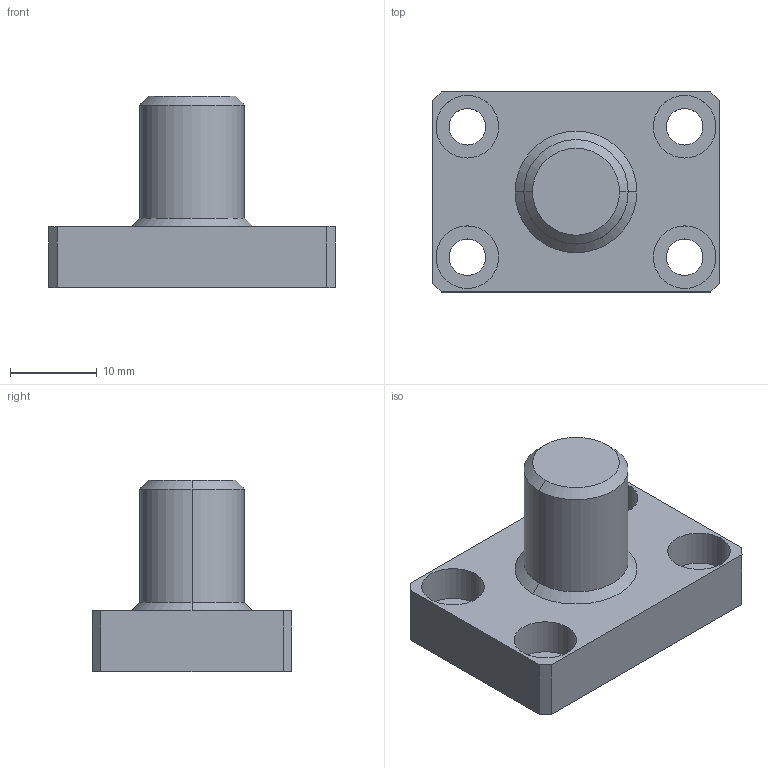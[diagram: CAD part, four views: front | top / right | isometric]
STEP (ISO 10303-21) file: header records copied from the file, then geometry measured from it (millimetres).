
FILE_DESCRIPTION (( 'STEP AP214' ), '1' );
FILE_NAME ('SCE2-05.STEP', '2019-11-07T06:36:24', ( '微软用户' ), ( '微软中国' ), 'SwSTEP 2.0', 'SolidWorks 2016', '' );
FILE_SCHEMA (( 'AUTOMOTIVE_DESIGN' ));
Length unit declared in the file: millimetre
Products named in the file (1): SCE2-05
Bounding box: 33 x 23 x 22 mm (x, y, z)
Volume: 6158.4 mm3; surface area: 3219.9 mm2
Topology: 1 solids, 1 shells, 37 faces, 86 edges, 56 vertices
Faces by surface type: cylinder 18, plane 15, cone 4
Entity records: 1118 total; most frequent: DIRECTION 202, CARTESIAN_POINT 180, ORIENTED_EDGE 172, EDGE_CURVE 86, AXIS2_PLACEMENT_3D 78, VERTEX_POINT 56, EDGE_LOOP 50, VECTOR 46
